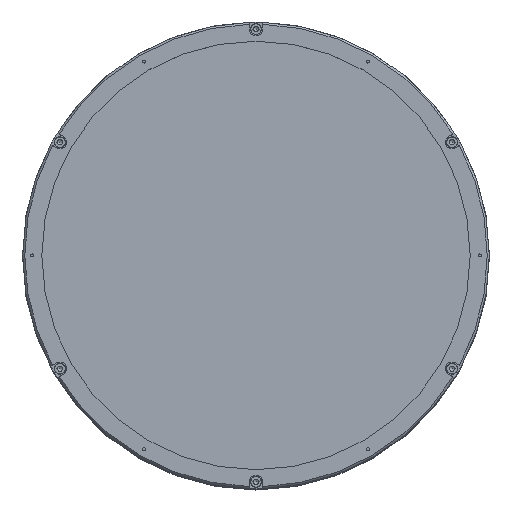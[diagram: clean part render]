
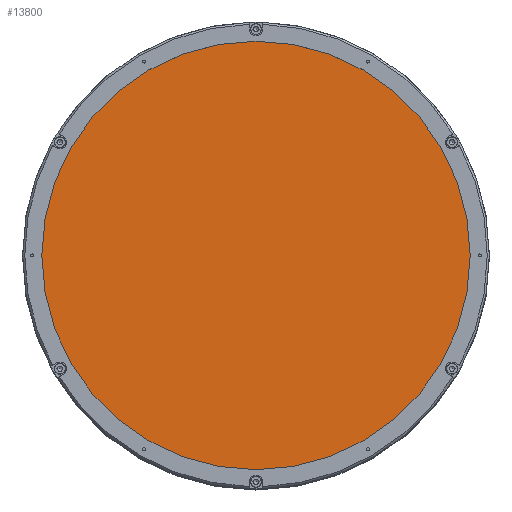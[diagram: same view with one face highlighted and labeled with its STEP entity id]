
A CAD part, top view. The second image highlights one B-rep face of the part: STEP entity #13800.
In plain terms, the highlighted planar face has unit normal (0, 0, 1).
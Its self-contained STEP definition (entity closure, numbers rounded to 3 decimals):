
#138 = DIRECTION ( 'NONE',  ( 0., 1., 0. ) ) ;
#538 = EDGE_LOOP ( 'NONE', ( #16811 ) ) ;
#2226 = DIRECTION ( 'NONE',  ( 0., 0., -1. ) ) ;
#3846 = AXIS2_PLACEMENT_3D ( 'NONE', #19604, #9851, #138 ) ;
#8809 = CARTESIAN_POINT ( 'NONE',  ( 0., 105.5, 462.38 ) ) ;
#9851 = DIRECTION ( 'NONE',  ( 0., 0., -1. ) ) ;
#12140 = CIRCLE ( 'NONE', #3846, 105.5 ) ;
#13390 = DIRECTION ( 'NONE',  ( 0., 1., 0. ) ) ;
#13800 = ADVANCED_FACE ( 'NONE', ( #18269 ), #18305, .F. ) ;
#15717 = EDGE_CURVE ( 'NONE', #16240, #16240, #12140, .T. ) ;
#16240 = VERTEX_POINT ( 'NONE', #8809 ) ;
#16811 = ORIENTED_EDGE ( 'NONE', *, *, #15717, .F. ) ;
#18269 = FACE_OUTER_BOUND ( 'NONE', #538, .T. ) ;
#18305 = PLANE ( 'NONE',  #18549 ) ;
#18549 = AXIS2_PLACEMENT_3D ( 'NONE', #19775, #2226, #13390 ) ;
#19604 = CARTESIAN_POINT ( 'NONE',  ( 0., 0., 462.38 ) ) ;
#19775 = CARTESIAN_POINT ( 'NONE',  ( 0., 105.717, 462.38 ) ) ;
